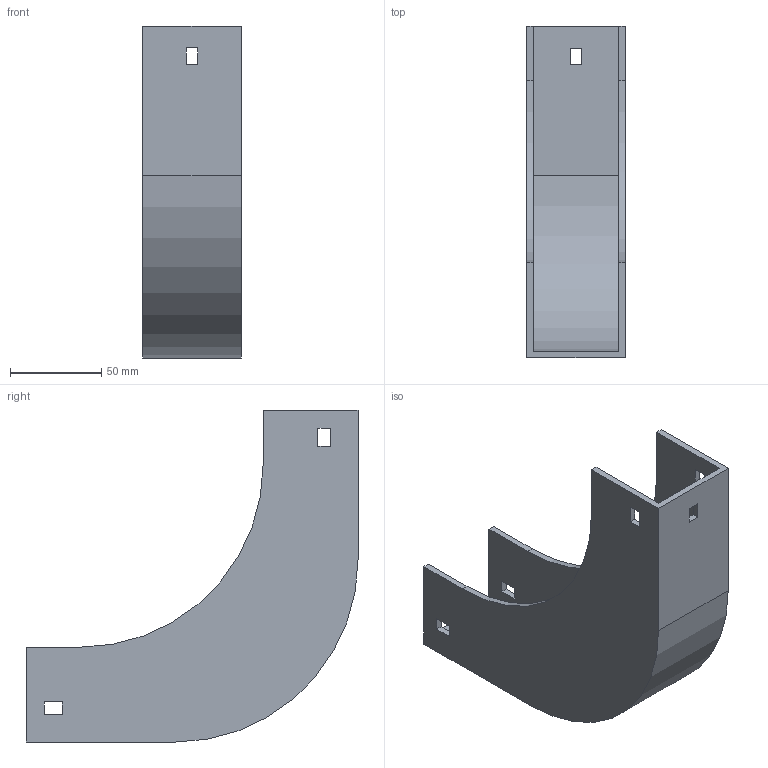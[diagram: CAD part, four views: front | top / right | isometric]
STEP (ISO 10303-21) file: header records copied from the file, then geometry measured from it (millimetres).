
FILE_DESCRIPTION (( 'STEP AP214' ), '1' );
FILE_NAME ('30F1B050.step', '2025-02-21T13:01:25', ( '' ), ( '' ), 'SwSTEP 2.0', 'SolidWorks 2023', '' );
FILE_SCHEMA (( 'AUTOMOTIVE_DESIGN' ));
Length unit declared in the file: millimetre
Products named in the file (1): 30F1B050
Bounding box: 54 x 182 x 182 mm (x, y, z)
Volume: 164543.9 mm3; surface area: 97313.9 mm2
Topology: 1 solids, 1 shells, 42 faces, 120 edges, 80 vertices
Faces by surface type: plane 38, cylinder 4
Entity records: 1399 total; most frequent: CARTESIAN_POINT 243, ORIENTED_EDGE 240, DIRECTION 214, EDGE_CURVE 120, VECTOR 112, LINE 112, VERTEX_POINT 80, EDGE_LOOP 54
